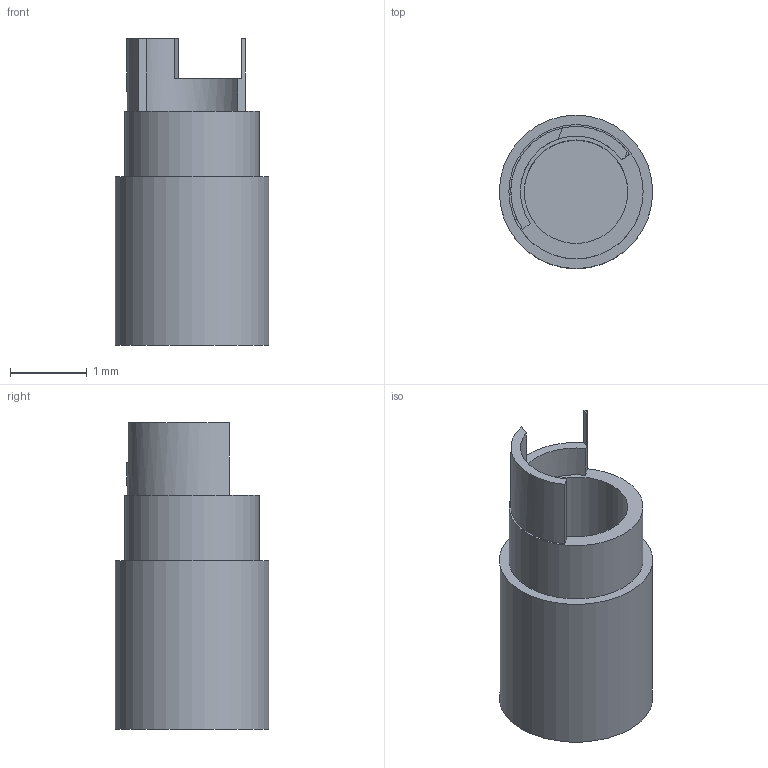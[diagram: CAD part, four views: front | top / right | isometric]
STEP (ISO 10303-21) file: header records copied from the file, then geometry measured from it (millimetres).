
FILE_DESCRIPTION(('Open CASCADE Model'),'2;1');
FILE_NAME('Open CASCADE Shape Model','2026-09-15T23:57:53',('Author'),( 'Open CASCADE'),'Open CASCADE STEP processor 7.9','Open CASCADE 7.9' ,'Unknown');
FILE_SCHEMA(('AUTOMOTIVE_DESIGN { 1 0 10303 214 1 1 1 1 }'));
Length unit declared in the file: millimetre
Products named in the file (1): Open CASCADE STEP translator 7.9 8
Bounding box: 2 x 2 x 4 mm (x, y, z)
Volume: 5 mm3; surface area: 41.1 mm2
Topology: 1 solids, 1 shells, 16 faces, 33 edges, 22 vertices
Faces by surface type: plane 11, cylinder 5
Full cylindrical faces by diameter (mm): 1.35 x1, 1.75 x1, 2 x1
Entity records: 849 total; most frequent: CARTESIAN_POINT 176, DIRECTION 118, ORIENTED_EDGE 66, PCURVE 66, DEFINITIONAL_REPRESENTATION 66, LINE 47, VECTOR 47, EDGE_CURVE 33
